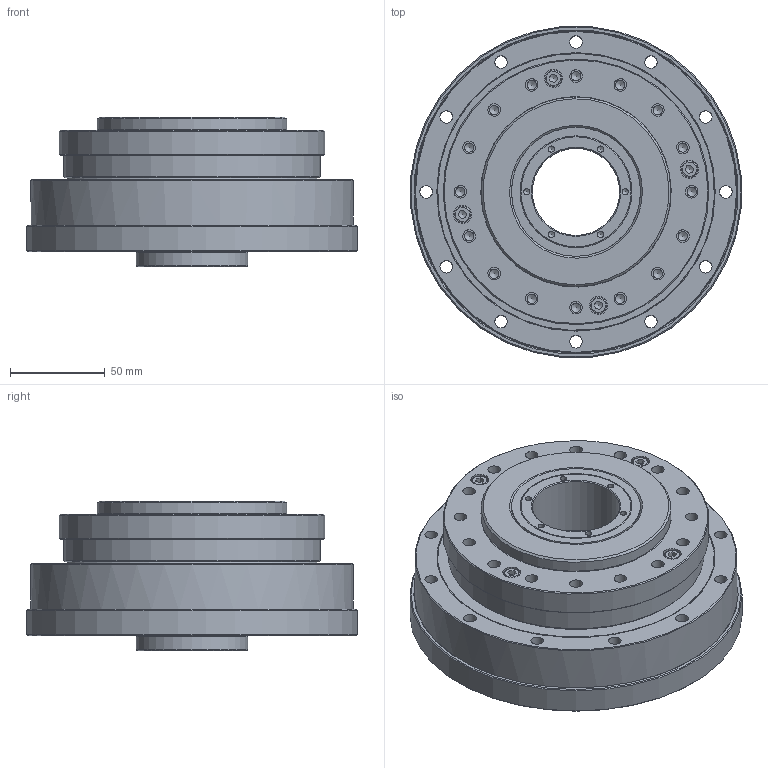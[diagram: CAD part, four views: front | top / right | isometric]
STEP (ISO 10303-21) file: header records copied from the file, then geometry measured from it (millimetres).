
FILE_DESCRIPTION(/* description */ (''),/* implementation_level */ '2;1');
FILE_NAME(/* name */ '\\Hiwin.tw\dfs\TB00F\研發課二組\\X2\6A5F5BC67D1A\X0\\1.設計\01-DT\DT-中空型暫存\\X2\898F683C\X0\40\00.承認圖\WTI-S-40-XXX-AH-1.stp',/* time_stamp */ '2023-09-26T13:15:57+08:00',/* author */ ('chiayu.chen'),/* organization */ (''),/* preprocessor_version */ 'ST-DEVELOPER v15.2',/* originating_system */ 'Autodesk Inventor 2014',/* authorisation */ '');
FILE_SCHEMA (('AUTOMOTIVE_DESIGN { 1 0 10303 214 3 1 1 }'));
Length unit declared in the file: centimetre
Products named in the file (1): WTI-S-40-XXX-AH
Bounding box: 174.33 x 174.33 x 79 mm (x, y, z)
Volume: 1173571.8 mm3; surface area: 127809.3 mm2
Topology: 1 solids, 24 shells, 535 faces, 1162 edges, 756 vertices
Faces by surface type: plane 189, cylinder 169, cone 153, torus 24
Full cylindrical faces by diameter (mm): 3.242 x18, 4 x6, 4.134 x4, 4.5 x12, 4.917 x16, 5 x4, 5.5 x4, 6.6 x68, 7.6 x6, 8.5 x10, 9.5 x4, 46 x2, 46.5 x1, 59 x2, 60 x1, 68 x1, 78 x1, 100 x1, 135 x2, 140 x1, 146 x1, 170 x3, 175 x1
Entity records: 11602 total; most frequent: DIRECTION 2126, CARTESIAN_POINT 1890, ORIENTED_EDGE 1294, EDGE_LOOP 1014, AXIS2_PLACEMENT_3D 1003, EDGE_CURVE 647, VERTEX_POINT 587, FACE_BOUND 572
